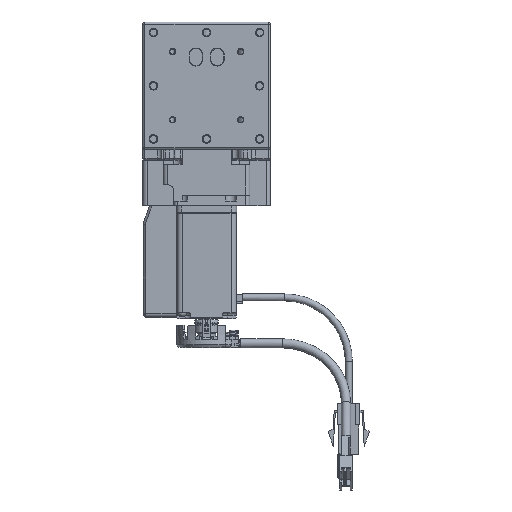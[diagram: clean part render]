
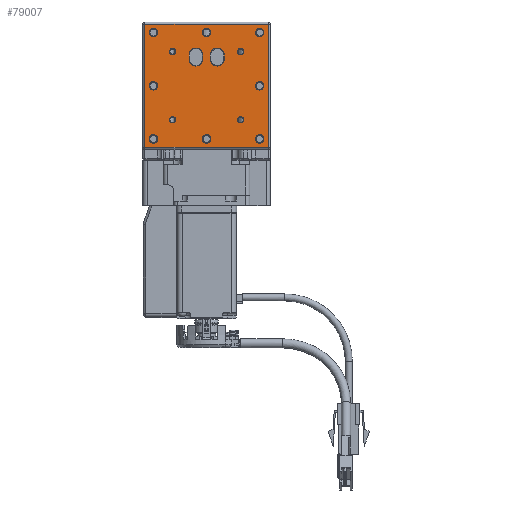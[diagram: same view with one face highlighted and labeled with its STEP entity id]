
A CAD part, top view. The second image highlights one B-rep face of the part: STEP entity #79007.
In plain terms, the highlighted planar face has unit normal (0, 0, 1) as drawn and (0, 1, 0) by its records, which use the part's own axes.
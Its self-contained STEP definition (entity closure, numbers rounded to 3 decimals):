
#1410=PLANE('',#93379);
#4569=LINE('',#120656,#13598);
#4570=LINE('',#120657,#13599);
#4571=LINE('',#120658,#13600);
#4572=LINE('',#120661,#13601);
#4573=LINE('',#120663,#13602);
#4574=LINE('',#120665,#13603);
#4575=LINE('',#120666,#13604);
#4576=LINE('',#120667,#13605);
#13598=VECTOR('',#99578,1000.);
#13599=VECTOR('',#99579,1000.);
#13600=VECTOR('',#99580,1000.);
#13601=VECTOR('',#99581,1000.);
#13602=VECTOR('',#99582,1000.);
#13603=VECTOR('',#99583,1000.);
#13604=VECTOR('',#99584,1000.);
#13605=VECTOR('',#99585,1000.);
#22830=ORIENTED_EDGE('',*,*,#46181,.F.);
#22831=ORIENTED_EDGE('',*,*,#46184,.F.);
#22832=ORIENTED_EDGE('',*,*,#46187,.F.);
#22833=ORIENTED_EDGE('',*,*,#46190,.F.);
#22834=ORIENTED_EDGE('',*,*,#46193,.F.);
#22835=ORIENTED_EDGE('',*,*,#46196,.F.);
#22836=ORIENTED_EDGE('',*,*,#46199,.F.);
#22837=ORIENTED_EDGE('',*,*,#46202,.F.);
#22838=ORIENTED_EDGE('',*,*,#46205,.F.);
#22839=ORIENTED_EDGE('',*,*,#46208,.F.);
#22840=ORIENTED_EDGE('',*,*,#46211,.F.);
#22841=ORIENTED_EDGE('',*,*,#46215,.F.);
#22842=ORIENTED_EDGE('',*,*,#46289,.F.);
#22843=ORIENTED_EDGE('',*,*,#46291,.F.);
#22844=ORIENTED_EDGE('',*,*,#46218,.F.);
#22845=ORIENTED_EDGE('',*,*,#46292,.F.);
#22846=ORIENTED_EDGE('',*,*,#46293,.T.);
#22847=ORIENTED_EDGE('',*,*,#46294,.T.);
#22848=ORIENTED_EDGE('',*,*,#46295,.T.);
#22849=ORIENTED_EDGE('',*,*,#46296,.T.);
#22850=ORIENTED_EDGE('',*,*,#46222,.F.);
#22851=ORIENTED_EDGE('',*,*,#46297,.F.);
#22852=ORIENTED_EDGE('',*,*,#46285,.F.);
#22853=ORIENTED_EDGE('',*,*,#46298,.F.);
#46181=EDGE_CURVE('',#57939,#57939,#65852,.T.);
#46184=EDGE_CURVE('',#57942,#57942,#65855,.T.);
#46187=EDGE_CURVE('',#57945,#57945,#65858,.T.);
#46190=EDGE_CURVE('',#57948,#57948,#65861,.T.);
#46193=EDGE_CURVE('',#57951,#57951,#65864,.T.);
#46196=EDGE_CURVE('',#57954,#57954,#65867,.T.);
#46199=EDGE_CURVE('',#57957,#57957,#65870,.T.);
#46202=EDGE_CURVE('',#57960,#57960,#65873,.T.);
#46205=EDGE_CURVE('',#57963,#57963,#65876,.T.);
#46208=EDGE_CURVE('',#57966,#57966,#65879,.T.);
#46211=EDGE_CURVE('',#57969,#57969,#65882,.T.);
#46215=EDGE_CURVE('',#57973,#57973,#65886,.T.);
#46218=EDGE_CURVE('',#57976,#57977,#65888,.T.);
#46222=EDGE_CURVE('',#57980,#57981,#65890,.T.);
#46285=EDGE_CURVE('',#58024,#58025,#65912,.T.);
#46289=EDGE_CURVE('',#58026,#58027,#65913,.T.);
#46291=EDGE_CURVE('',#57977,#58026,#4569,.T.);
#46292=EDGE_CURVE('',#58027,#57976,#4570,.T.);
#46293=EDGE_CURVE('',#58028,#58029,#4571,.T.);
#46294=EDGE_CURVE('',#58029,#58030,#4572,.T.);
#46295=EDGE_CURVE('',#58030,#58031,#4573,.T.);
#46296=EDGE_CURVE('',#58031,#58028,#4574,.T.);
#46297=EDGE_CURVE('',#58025,#57980,#4575,.T.);
#46298=EDGE_CURVE('',#57981,#58024,#4576,.T.);
#57939=VERTEX_POINT('',#120411);
#57942=VERTEX_POINT('',#120419);
#57945=VERTEX_POINT('',#120427);
#57948=VERTEX_POINT('',#120435);
#57951=VERTEX_POINT('',#120443);
#57954=VERTEX_POINT('',#120451);
#57957=VERTEX_POINT('',#120459);
#57960=VERTEX_POINT('',#120467);
#57963=VERTEX_POINT('',#120475);
#57966=VERTEX_POINT('',#120483);
#57969=VERTEX_POINT('',#120491);
#57973=VERTEX_POINT('',#120501);
#57976=VERTEX_POINT('',#120507);
#57977=VERTEX_POINT('',#120509);
#57980=VERTEX_POINT('',#120516);
#57981=VERTEX_POINT('',#120518);
#58024=VERTEX_POINT('',#120645);
#58025=VERTEX_POINT('',#120646);
#58026=VERTEX_POINT('',#120651);
#58027=VERTEX_POINT('',#120653);
#58028=VERTEX_POINT('',#120659);
#58029=VERTEX_POINT('',#120660);
#58030=VERTEX_POINT('',#120662);
#58031=VERTEX_POINT('',#120664);
#65852=CIRCLE('',#93271,2.);
#65855=CIRCLE('',#93276,2.);
#65858=CIRCLE('',#93281,2.);
#65861=CIRCLE('',#93286,2.);
#65864=CIRCLE('',#93291,2.);
#65867=CIRCLE('',#93296,2.);
#65870=CIRCLE('',#93301,2.);
#65873=CIRCLE('',#93306,2.);
#65876=CIRCLE('',#93311,1.5);
#65879=CIRCLE('',#93316,1.5);
#65882=CIRCLE('',#93321,1.5);
#65886=CIRCLE('',#93327,1.5);
#65888=CIRCLE('',#93330,3.25);
#65890=CIRCLE('',#93333,3.25);
#65912=CIRCLE('',#93376,3.25);
#65913=CIRCLE('',#93378,3.25);
#67789=EDGE_LOOP('',(#22830));
#67790=EDGE_LOOP('',(#22831));
#67791=EDGE_LOOP('',(#22832));
#67792=EDGE_LOOP('',(#22833));
#67793=EDGE_LOOP('',(#22834));
#67794=EDGE_LOOP('',(#22835));
#67795=EDGE_LOOP('',(#22836));
#67796=EDGE_LOOP('',(#22837));
#67797=EDGE_LOOP('',(#22838));
#67798=EDGE_LOOP('',(#22839));
#67799=EDGE_LOOP('',(#22840));
#67800=EDGE_LOOP('',(#22841));
#67801=EDGE_LOOP('',(#22842,#22843,#22844,#22845));
#67802=EDGE_LOOP('',(#22846,#22847,#22848,#22849));
#67803=EDGE_LOOP('',(#22850,#22851,#22852,#22853));
#72988=FACE_BOUND('',#67789,.T.);
#72989=FACE_BOUND('',#67790,.T.);
#72990=FACE_BOUND('',#67791,.T.);
#72991=FACE_BOUND('',#67792,.T.);
#72992=FACE_BOUND('',#67793,.T.);
#72993=FACE_BOUND('',#67794,.T.);
#72994=FACE_BOUND('',#67795,.T.);
#72995=FACE_BOUND('',#67796,.T.);
#72996=FACE_BOUND('',#67797,.T.);
#72997=FACE_BOUND('',#67798,.T.);
#72998=FACE_BOUND('',#67799,.T.);
#72999=FACE_BOUND('',#67800,.T.);
#73000=FACE_BOUND('',#67801,.T.);
#73001=FACE_BOUND('',#67802,.T.);
#73002=FACE_BOUND('',#67803,.T.);
#79007=ADVANCED_FACE('',(#72988,#72989,#72990,#72991,#72992,#72993,#72994,
#72995,#72996,#72997,#72998,#72999,#73000,#73001,#73002),#1410,.F.);
#93271=AXIS2_PLACEMENT_3D('',#120410,#99312,#99313);
#93276=AXIS2_PLACEMENT_3D('',#120418,#99322,#99323);
#93281=AXIS2_PLACEMENT_3D('',#120426,#99332,#99333);
#93286=AXIS2_PLACEMENT_3D('',#120434,#99342,#99343);
#93291=AXIS2_PLACEMENT_3D('',#120442,#99352,#99353);
#93296=AXIS2_PLACEMENT_3D('',#120450,#99362,#99363);
#93301=AXIS2_PLACEMENT_3D('',#120458,#99372,#99373);
#93306=AXIS2_PLACEMENT_3D('',#120466,#99382,#99383);
#93311=AXIS2_PLACEMENT_3D('',#120474,#99392,#99393);
#93316=AXIS2_PLACEMENT_3D('',#120482,#99402,#99403);
#93321=AXIS2_PLACEMENT_3D('',#120490,#99412,#99413);
#93327=AXIS2_PLACEMENT_3D('',#120500,#99424,#99425);
#93330=AXIS2_PLACEMENT_3D('',#120508,#99431,#99432);
#93333=AXIS2_PLACEMENT_3D('',#120517,#99439,#99440);
#93376=AXIS2_PLACEMENT_3D('',#120644,#99566,#99567);
#93378=AXIS2_PLACEMENT_3D('',#120652,#99573,#99574);
#93379=AXIS2_PLACEMENT_3D('',#120655,#99576,#99577);
#99312=DIRECTION('',(0.,1.,0.));
#99313=DIRECTION('',(0.,0.,-1.));
#99322=DIRECTION('',(0.,1.,0.));
#99323=DIRECTION('',(0.,0.,-1.));
#99332=DIRECTION('',(0.,1.,0.));
#99333=DIRECTION('',(0.,0.,-1.));
#99342=DIRECTION('',(0.,1.,0.));
#99343=DIRECTION('',(0.,0.,-1.));
#99352=DIRECTION('',(0.,1.,0.));
#99353=DIRECTION('',(0.,0.,-1.));
#99362=DIRECTION('',(0.,1.,0.));
#99363=DIRECTION('',(0.,0.,-1.));
#99372=DIRECTION('',(0.,1.,0.));
#99373=DIRECTION('',(0.,0.,-1.));
#99382=DIRECTION('',(0.,1.,0.));
#99383=DIRECTION('',(0.,0.,-1.));
#99392=DIRECTION('',(0.,1.,0.));
#99393=DIRECTION('',(0.,0.,-1.));
#99402=DIRECTION('',(0.,1.,0.));
#99403=DIRECTION('',(0.,0.,-1.));
#99412=DIRECTION('',(0.,1.,0.));
#99413=DIRECTION('',(0.,0.,-1.));
#99424=DIRECTION('',(0.,1.,0.));
#99425=DIRECTION('',(0.,0.,-1.));
#99431=DIRECTION('',(0.,1.,0.));
#99432=DIRECTION('',(0.,0.,-1.));
#99439=DIRECTION('',(0.,1.,0.));
#99440=DIRECTION('',(0.,0.,-1.));
#99566=DIRECTION('',(0.,1.,0.));
#99567=DIRECTION('',(0.,0.,-1.));
#99573=DIRECTION('',(0.,1.,0.));
#99574=DIRECTION('',(0.,0.,-1.));
#99576=DIRECTION('',(0.,-1.,0.));
#99577=DIRECTION('',(0.,0.,1.));
#99578=DIRECTION('',(0.,0.,1.));
#99579=DIRECTION('',(0.,0.,-1.));
#99580=DIRECTION('',(0.,0.,1.));
#99581=DIRECTION('',(1.,0.,0.));
#99582=DIRECTION('',(0.,0.,-1.));
#99583=DIRECTION('',(-1.,0.,0.));
#99584=DIRECTION('',(0.,0.,-1.));
#99585=DIRECTION('',(0.,0.,1.));
#120410=CARTESIAN_POINT('',(25.,30.,22.5));
#120411=CARTESIAN_POINT('',(25.,30.,20.5));
#120418=CARTESIAN_POINT('',(25.,30.,-2.5));
#120419=CARTESIAN_POINT('',(25.,30.,-4.5));
#120426=CARTESIAN_POINT('',(25.,30.,-27.5));
#120427=CARTESIAN_POINT('',(25.,30.,-29.5));
#120434=CARTESIAN_POINT('',(-25.,30.,-27.5));
#120435=CARTESIAN_POINT('',(-25.,30.,-29.5));
#120442=CARTESIAN_POINT('',(-25.,30.,-2.5));
#120443=CARTESIAN_POINT('',(-25.,30.,-4.5));
#120450=CARTESIAN_POINT('',(-25.,30.,22.5));
#120451=CARTESIAN_POINT('',(-25.,30.,20.5));
#120458=CARTESIAN_POINT('',(0.,30.,22.5));
#120459=CARTESIAN_POINT('',(0.,30.,20.5));
#120466=CARTESIAN_POINT('',(0.,30.,-27.5));
#120467=CARTESIAN_POINT('',(0.,30.,-29.5));
#120474=CARTESIAN_POINT('',(16.,30.,13.5));
#120475=CARTESIAN_POINT('',(16.,30.,12.));
#120482=CARTESIAN_POINT('',(16.,30.,-18.5));
#120483=CARTESIAN_POINT('',(16.,30.,-20.));
#120490=CARTESIAN_POINT('',(-16.,30.,13.5));
#120491=CARTESIAN_POINT('',(-16.,30.,12.));
#120500=CARTESIAN_POINT('',(-16.,30.,-18.5));
#120501=CARTESIAN_POINT('',(-16.,30.,-20.));
#120507=CARTESIAN_POINT('',(8.25,30.,-17.));
#120508=CARTESIAN_POINT('',(5.,30.,-17.));
#120509=CARTESIAN_POINT('',(1.75,30.,-17.));
#120516=CARTESIAN_POINT('',(-1.75,30.,-17.));
#120517=CARTESIAN_POINT('',(-5.,30.,-17.));
#120518=CARTESIAN_POINT('',(-8.25,30.,-17.));
#120644=CARTESIAN_POINT('',(-5.,30.,-15.));
#120645=CARTESIAN_POINT('',(-8.25,30.,-15.));
#120646=CARTESIAN_POINT('',(-1.75,30.,-15.));
#120651=CARTESIAN_POINT('',(1.75,30.,-15.));
#120652=CARTESIAN_POINT('',(5.,30.,-15.));
#120653=CARTESIAN_POINT('',(8.25,30.,-15.));
#120655=CARTESIAN_POINT('',(20.,30.,-32.5));
#120656=CARTESIAN_POINT('',(1.75,30.,-15.));
#120657=CARTESIAN_POINT('',(8.25,30.,-15.));
#120658=CARTESIAN_POINT('',(-29.,30.,-32.5));
#120659=CARTESIAN_POINT('',(-29.,30.,-31.5));
#120660=CARTESIAN_POINT('',(-29.,30.,26.5));
#120661=CARTESIAN_POINT('',(30.,30.,26.5));
#120662=CARTESIAN_POINT('',(29.,30.,26.5));
#120663=CARTESIAN_POINT('',(29.,30.,-32.5));
#120664=CARTESIAN_POINT('',(29.,30.,-31.5));
#120665=CARTESIAN_POINT('',(20.,30.,-31.5));
#120666=CARTESIAN_POINT('',(-1.75,30.,-15.));
#120667=CARTESIAN_POINT('',(-8.25,30.,-15.));
